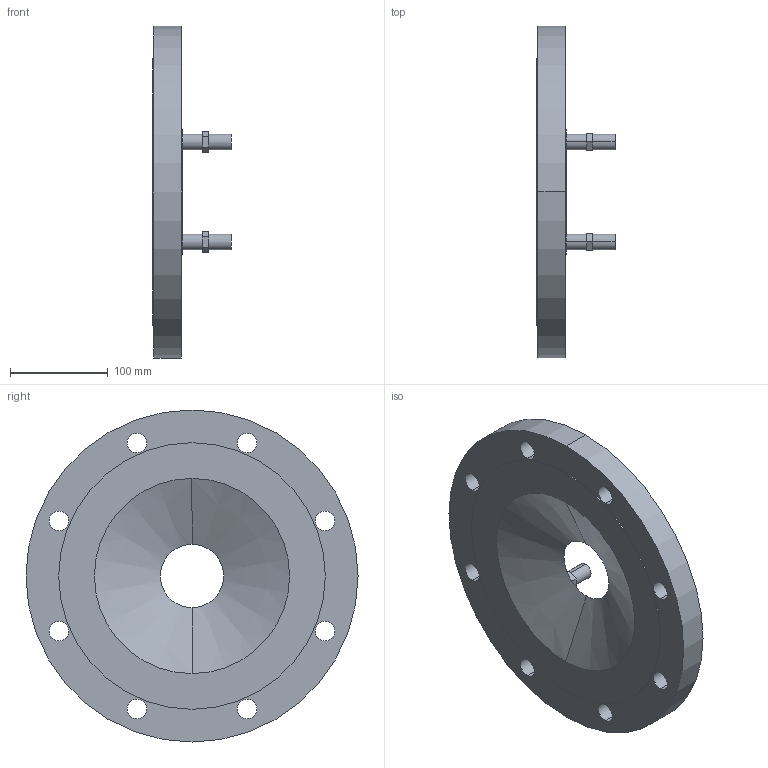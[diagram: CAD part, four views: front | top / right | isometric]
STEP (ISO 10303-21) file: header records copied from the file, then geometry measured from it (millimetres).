
FILE_DESCRIPTION(('STEP AP214'),'1');
FILE_NAME('S:/EK/USER/CAT6/3DHomepage_27-04-2012/VDI-Rohrsysteme_und_Stahlrohre/0802_(8110)/0802_PN10_DN200_DN65.STP','2013-01-25T08:09:18',(' '),(' '),'Spatial InterOp 3D',' ',' ');
FILE_SCHEMA(('automotive_design'));
Length unit declared in the file: millimetre
Products named in the file (10): 3D-Objekt
Bounding box: 80 x 340 x 340 mm (x, y, z)
Volume: 2140959.2 mm3; surface area: 281341.2 mm2
Topology: 10 solids, 10 shells, 79 faces, 174 edges, 116 vertices
Faces by surface type: plane 45, cylinder 32, cone 2
Entity records: 3100 total; most frequent: DIRECTION 420, CARTESIAN_POINT 379, ORIENTED_EDGE 348, EDGE_CURVE 174, AXIS2_PLACEMENT_3D 157, VERTEX_POINT 116, LINE 106, VECTOR 106
